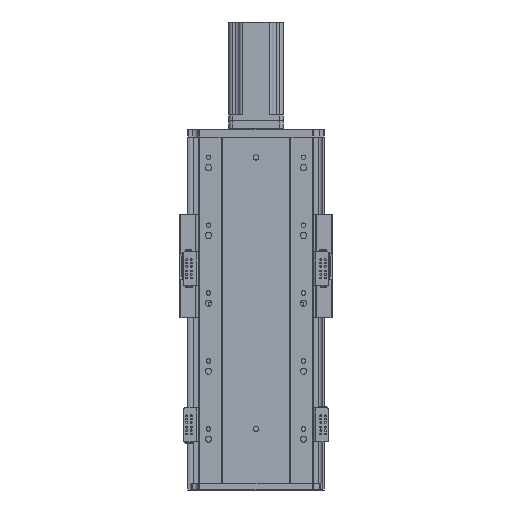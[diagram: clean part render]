
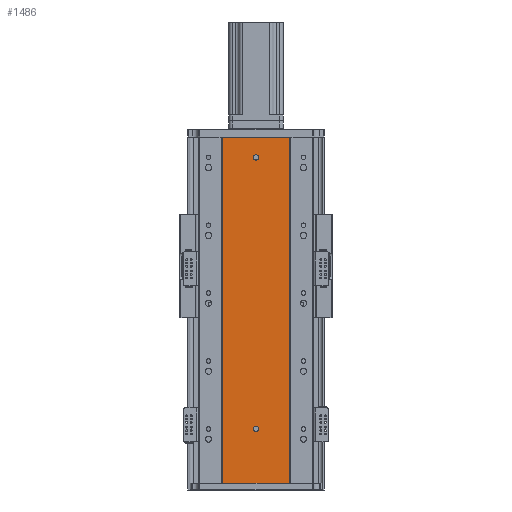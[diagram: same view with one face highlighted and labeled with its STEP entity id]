
A CAD part, front view. The second image highlights one B-rep face of the part: STEP entity #1486.
In plain terms, the highlighted planar face has unit normal (0, -1, 0).
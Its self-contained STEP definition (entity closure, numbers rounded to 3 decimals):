
#258 = DIRECTION ( 'NONE',  ( 1., 0., 0. ) ) ;
#274 = CARTESIAN_POINT ( 'NONE',  ( 0., 79.476, 0. ) ) ;
#328 = CARTESIAN_POINT ( 'NONE',  ( 185.97, 79.476, 340. ) ) ;
#331 = CARTESIAN_POINT ( 'NONE',  ( 86.97, 79.476, 510. ) ) ;
#332 = CARTESIAN_POINT ( 'NONE',  ( 86.97, 79.476, 0. ) ) ;
#333 = CARTESIAN_POINT ( 'NONE',  ( 185.97, 79.476, 170. ) ) ;
#337 = DIRECTION ( 'NONE',  ( 0., -1., 0. ) ) ;
#342 = CARTESIAN_POINT ( 'NONE',  ( 86.97, 79.476, 340. ) ) ;
#345 = CARTESIAN_POINT ( 'NONE',  ( 185.97, 79.476, 0. ) ) ;
#348 = CARTESIAN_POINT ( 'NONE',  ( 136.47, 79.476, 80. ) ) ;
#356 = CARTESIAN_POINT ( 'NONE',  ( 86.97, 79.476, 170. ) ) ;
#360 = DIRECTION ( 'NONE',  ( 0., 0., -1. ) ) ;
#364 = CARTESIAN_POINT ( 'NONE',  ( 185.97, 79.476, 510. ) ) ;
#377 = CARTESIAN_POINT ( 'NONE',  ( 0., 79.476, 510. ) ) ;
#378 = CARTESIAN_POINT ( 'NONE',  ( 136.47, 79.476, 480. ) ) ;
#394 = DIRECTION ( 'NONE',  ( 0., 0., -1. ) ) ;
#407 = DIRECTION ( 'NONE',  ( 0., -1., 0. ) ) ;
#408 = DIRECTION ( 'NONE',  ( 1., 0., 0. ) ) ;
#1486 = ADVANCED_FACE ( 'NONE', ( #14200, #14215, #14218 ), #27923, .F. ) ;
#5798 = ORIENTED_EDGE ( 'NONE', *, *, #8672, .F. ) ;
#5800 = ORIENTED_EDGE ( 'NONE', *, *, #7920, .F. ) ;
#5831 = ORIENTED_EDGE ( 'NONE', *, *, #8656, .F. ) ;
#5853 = ORIENTED_EDGE ( 'NONE', *, *, #8687, .F. ) ;
#5856 = ORIENTED_EDGE ( 'NONE', *, *, #8661, .F. ) ;
#5860 = ORIENTED_EDGE ( 'NONE', *, *, #7982, .F. ) ;
#5879 = ORIENTED_EDGE ( 'NONE', *, *, #8659, .T. ) ;
#5910 = ORIENTED_EDGE ( 'NONE', *, *, #8626, .T. ) ;
#7920 = EDGE_CURVE ( 'NONE', #9826, #9818, #16221, .T. ) ;
#7982 = EDGE_CURVE ( 'NONE', #9910, #9799, #16262, .T. ) ;
#8626 = EDGE_CURVE ( 'NONE', #9469, #9543, #36367, .T. ) ;
#8656 = EDGE_CURVE ( 'NONE', #9799, #9910, #36402, .T. ) ;
#8659 = EDGE_CURVE ( 'NONE', #9447, #9469, #32610, .T. ) ;
#8661 = EDGE_CURVE ( 'NONE', #9508, #9543, #32651, .T. ) ;
#8672 = EDGE_CURVE ( 'NONE', #9818, #9826, #36455, .T. ) ;
#8687 = EDGE_CURVE ( 'NONE', #9447, #9508, #36425, .T. ) ;
#9447 = VERTEX_POINT ( 'NONE', #18163 ) ;
#9469 = VERTEX_POINT ( 'NONE', #18197 ) ;
#9508 = VERTEX_POINT ( 'NONE', #18235 ) ;
#9543 = VERTEX_POINT ( 'NONE', #18376 ) ;
#9799 = VERTEX_POINT ( 'NONE', #18815 ) ;
#9818 = VERTEX_POINT ( 'NONE', #18785 ) ;
#9826 = VERTEX_POINT ( 'NONE', #18790 ) ;
#9910 = VERTEX_POINT ( 'NONE', #18934 ) ;
#14200 = FACE_BOUND ( 'NONE', #19870, .T. ) ;
#14215 = FACE_BOUND ( 'NONE', #19812, .T. ) ;
#14218 = FACE_OUTER_BOUND ( 'NONE', #19816, .T. ) ;
#16221 = CIRCLE ( 'NONE', #21018, 4. ) ;
#16262 = CIRCLE ( 'NONE', #21035, 4. ) ;
#18163 = CARTESIAN_POINT ( 'NONE',  ( 86.97, 79.476, 510. ) ) ;
#18197 = CARTESIAN_POINT ( 'NONE',  ( 86.97, 79.476, 0. ) ) ;
#18235 = CARTESIAN_POINT ( 'NONE',  ( 185.97, 79.476, 510. ) ) ;
#18376 = CARTESIAN_POINT ( 'NONE',  ( 185.97, 79.476, 0. ) ) ;
#18785 = CARTESIAN_POINT ( 'NONE',  ( 136.47, 79.476, 476. ) ) ;
#18790 = CARTESIAN_POINT ( 'NONE',  ( 136.47, 79.476, 484. ) ) ;
#18815 = CARTESIAN_POINT ( 'NONE',  ( 136.47, 79.476, 76. ) ) ;
#18934 = CARTESIAN_POINT ( 'NONE',  ( 136.47, 79.476, 84. ) ) ;
#19812 = EDGE_LOOP ( 'NONE', ( #5831, #5860 ) ) ;
#19816 = EDGE_LOOP ( 'NONE', ( #5910, #5856, #5853, #5879 ) ) ;
#19870 = EDGE_LOOP ( 'NONE', ( #5798, #5800 ) ) ;
#19984 = AXIS2_PLACEMENT_3D ( 'NONE', #27959, #27932, #27922 ) ;
#21018 = AXIS2_PLACEMENT_3D ( 'NONE', #23159, #23138, #23148 ) ;
#21035 = AXIS2_PLACEMENT_3D ( 'NONE', #28477, #28517, #28489 ) ;
#21204 = AXIS2_PLACEMENT_3D ( 'NONE', #378, #407, #394 ) ;
#21232 = AXIS2_PLACEMENT_3D ( 'NONE', #348, #337, #360 ) ;
#23138 = DIRECTION ( 'NONE',  ( 0., -1., 0. ) ) ;
#23148 = DIRECTION ( 'NONE',  ( 0., 0., -1. ) ) ;
#23159 = CARTESIAN_POINT ( 'NONE',  ( 136.47, 79.476, 480. ) ) ;
#27922 = DIRECTION ( 'NONE',  ( 0., 0., 1. ) ) ;
#27923 = PLANE ( 'NONE',  #19984 ) ;
#27932 = DIRECTION ( 'NONE',  ( 0., 1., 0. ) ) ;
#27959 = CARTESIAN_POINT ( 'NONE',  ( 0., 79.476, 510. ) ) ;
#28477 = CARTESIAN_POINT ( 'NONE',  ( 136.47, 79.476, 80. ) ) ;
#28489 = DIRECTION ( 'NONE',  ( 0., 0., -1. ) ) ;
#28517 = DIRECTION ( 'NONE',  ( 0., -1., 0. ) ) ;
#32610 = B_SPLINE_CURVE_WITH_KNOTS ( 'NONE', 3,
 ( #331, #342, #356, #332 ),
 .UNSPECIFIED., .F., .F.,
 ( 4, 4 ),
 ( 0., 1. ),
 .UNSPECIFIED. ) ;
#32651 = B_SPLINE_CURVE_WITH_KNOTS ( 'NONE', 3,
 ( #364, #328, #333, #345 ),
 .UNSPECIFIED., .F., .F.,
 ( 4, 4 ),
 ( 0., 1. ),
 .UNSPECIFIED. ) ;
#36367 = LINE ( 'NONE', #274, #36379 ) ;
#36379 = VECTOR ( 'NONE', #258, 1000. ) ;
#36402 = CIRCLE ( 'NONE', #21232, 4. ) ;
#36425 = LINE ( 'NONE', #377, #36450 ) ;
#36450 = VECTOR ( 'NONE', #408, 1000. ) ;
#36455 = CIRCLE ( 'NONE', #21204, 4. ) ;
